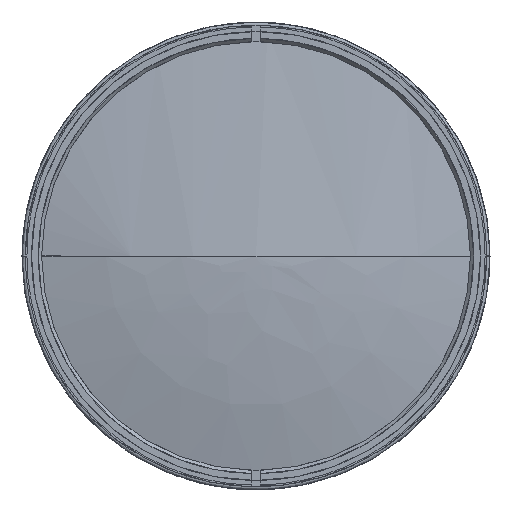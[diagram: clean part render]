
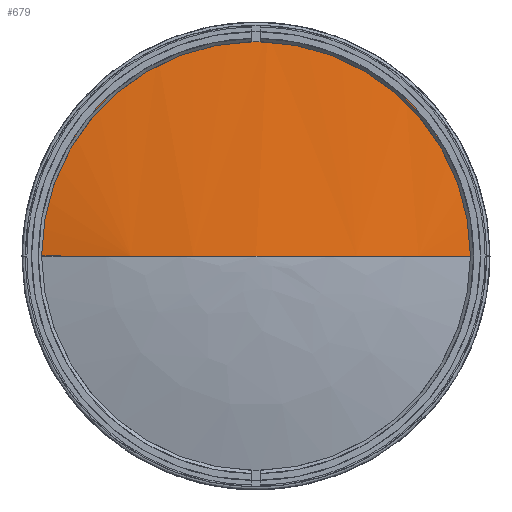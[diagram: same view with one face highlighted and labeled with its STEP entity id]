
A CAD part, left-side view. The second image highlights one B-rep face of the part: STEP entity #679.
In plain terms, the highlighted face is a revolution surface.
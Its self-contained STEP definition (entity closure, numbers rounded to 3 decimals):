
#679 = ADVANCED_FACE('',(#680),#698,.T.);
#680 = FACE_BOUND('',#681,.T.);
#681 = EDGE_LOOP('',(#682,#712,#731,#750));
#682 = ORIENTED_EDGE('',*,*,#683,.F.);
#683 = EDGE_CURVE('',#684,#686,#688,.T.);
#684 = VERTEX_POINT('',#685);
#685 = CARTESIAN_POINT('',(-278.,0.,0.)
  );
#686 = VERTEX_POINT('',#687);
#687 = CARTESIAN_POINT('',(-270.092,-68.5,
    0.));
#688 = SURFACE_CURVE('',#689,(#697),.PCURVE_S1.);
#689 = ( BOUNDED_CURVE() B_SPLINE_CURVE(6,(#690,#691,#692,#693,#694,#695
,#696),.UNSPECIFIED.,.F.,.F.) B_SPLINE_CURVE_WITH_KNOTS((7,7),(0.,1.),
.PIECEWISE_BEZIER_KNOTS.) CURVE() GEOMETRIC_REPRESENTATION_ITEM() 
RATIONAL_B_SPLINE_CURVE((1.001,1.,1.,
    1.,1.,1.,1.001)) 
REPRESENTATION_ITEM('') );
#690 = CARTESIAN_POINT('',(-278.,0.,0.)
  );
#691 = CARTESIAN_POINT('',(-278.,-11.523,
    0.));
#692 = CARTESIAN_POINT('',(-277.47,-23.04,
    0.));
#693 = CARTESIAN_POINT('',(-276.411,-34.523,
    0.));
#694 = CARTESIAN_POINT('',(-274.826,-45.946,
    0.));
#695 = CARTESIAN_POINT('',(-272.718,-57.28,
    0.));
#696 = CARTESIAN_POINT('',(-270.092,-68.5,
    0.));
#697 = PCURVE('',#698,#707);
#698 = SURFACE_OF_REVOLUTION('',#699,#704);
#699 = CIRCLE('',#700,300.64);
#700 = AXIS2_PLACEMENT_3D('',#701,#702,#703);
#701 = CARTESIAN_POINT('',(22.64,0.,0.
    ));
#702 = DIRECTION('',(0.,0.,-1.));
#703 = DIRECTION('',(1.,0.,0.));
#704 = AXIS1_PLACEMENT('',#705,#706);
#705 = CARTESIAN_POINT('',(22.64,0.,0.));
#706 = DIRECTION('',(1.,0.,0.));
#707 = DEFINITIONAL_REPRESENTATION('',(#708),#711);
#708 = B_SPLINE_CURVE_WITH_KNOTS('',1,(#709,#710),.UNSPECIFIED.,.F.,.F.,
  (2,2),(0.,1.),.PIECEWISE_BEZIER_KNOTS.);
#709 = CARTESIAN_POINT('',(6.283,3.142));
#710 = CARTESIAN_POINT('',(6.283,2.912));
#711 = ( GEOMETRIC_REPRESENTATION_CONTEXT(2) 
PARAMETRIC_REPRESENTATION_CONTEXT() REPRESENTATION_CONTEXT('',''
  ) );
#712 = ORIENTED_EDGE('',*,*,#713,.F.);
#713 = EDGE_CURVE('',#714,#684,#716,.T.);
#714 = VERTEX_POINT('',#715);
#715 = CARTESIAN_POINT('',(-278.,0.,0.)
  );
#716 = SURFACE_CURVE('',#717,(#725),.PCURVE_S1.);
#717 = ( BOUNDED_CURVE() B_SPLINE_CURVE(6,(#718,#719,#720,#721,#722,#723
,#724),.UNSPECIFIED.,.F.,.F.) B_SPLINE_CURVE_WITH_KNOTS((7,7),(0.,1.),
.PIECEWISE_BEZIER_KNOTS.) CURVE() GEOMETRIC_REPRESENTATION_ITEM() 
RATIONAL_B_SPLINE_CURVE((1.133,1.036,0.992,
    0.976,0.992,1.036,1.133)) 
REPRESENTATION_ITEM('') );
#718 = CARTESIAN_POINT('',(-278.,0.,0.)
  );
#719 = CARTESIAN_POINT('',(-278.,0.,0.));
#720 = CARTESIAN_POINT('',(-278.,0.,0.));
#721 = CARTESIAN_POINT('',(-278.,0.,0.)
  );
#722 = CARTESIAN_POINT('',(-278.,0.,0.)
  );
#723 = CARTESIAN_POINT('',(-278.,0.,0.)
  );
#724 = CARTESIAN_POINT('',(-278.,0.,0.)
  );
#725 = PCURVE('',#698,#726);
#726 = DEFINITIONAL_REPRESENTATION('',(#727),#730);
#727 = B_SPLINE_CURVE_WITH_KNOTS('',1,(#728,#729),.UNSPECIFIED.,.F.,.F.,
  (2,2),(0.,1.),.PIECEWISE_BEZIER_KNOTS.);
#728 = CARTESIAN_POINT('',(3.142,3.142));
#729 = CARTESIAN_POINT('',(6.283,3.142));
#730 = ( GEOMETRIC_REPRESENTATION_CONTEXT(2) 
PARAMETRIC_REPRESENTATION_CONTEXT() REPRESENTATION_CONTEXT('',''
  ) );
#731 = ORIENTED_EDGE('',*,*,#732,.F.);
#732 = EDGE_CURVE('',#733,#714,#735,.T.);
#733 = VERTEX_POINT('',#734);
#734 = CARTESIAN_POINT('',(-270.092,68.5,
    0.));
#735 = SURFACE_CURVE('',#736,(#744),.PCURVE_S1.);
#736 = ( BOUNDED_CURVE() B_SPLINE_CURVE(6,(#737,#738,#739,#740,#741,#742
,#743),.UNSPECIFIED.,.F.,.F.) B_SPLINE_CURVE_WITH_KNOTS((7,7),(0.,1.),
.PIECEWISE_BEZIER_KNOTS.) CURVE() GEOMETRIC_REPRESENTATION_ITEM() 
RATIONAL_B_SPLINE_CURVE((1.001,1.,1.,
    1.,1.,1.,1.001)) 
REPRESENTATION_ITEM('') );
#737 = CARTESIAN_POINT('',(-270.092,68.5,
    0.));
#738 = CARTESIAN_POINT('',(-272.718,57.28,
    0.));
#739 = CARTESIAN_POINT('',(-274.826,45.946,
    0.));
#740 = CARTESIAN_POINT('',(-276.411,34.523,
    0.));
#741 = CARTESIAN_POINT('',(-277.47,23.04,
    0.));
#742 = CARTESIAN_POINT('',(-278.,11.523,
    0.));
#743 = CARTESIAN_POINT('',(-278.,0.,0.)
  );
#744 = PCURVE('',#698,#745);
#745 = DEFINITIONAL_REPRESENTATION('',(#746),#749);
#746 = B_SPLINE_CURVE_WITH_KNOTS('',1,(#747,#748),.UNSPECIFIED.,.F.,.F.,
  (2,2),(0.,1.),.PIECEWISE_BEZIER_KNOTS.);
#747 = CARTESIAN_POINT('',(3.142,2.912));
#748 = CARTESIAN_POINT('',(3.142,3.142));
#749 = ( GEOMETRIC_REPRESENTATION_CONTEXT(2) 
PARAMETRIC_REPRESENTATION_CONTEXT() REPRESENTATION_CONTEXT('',''
  ) );
#750 = ORIENTED_EDGE('',*,*,#751,.F.);
#751 = EDGE_CURVE('',#686,#733,#752,.T.);
#752 = SURFACE_CURVE('',#753,(#764),.PCURVE_S1.);
#753 = B_SPLINE_CURVE_WITH_KNOTS('',9,(#754,#755,#756,#757,#758,#759,
    #760,#761,#762,#763),.UNSPECIFIED.,.F.,.F.,(10,10),(0.,1.),
  .PIECEWISE_BEZIER_KNOTS.);
#754 = CARTESIAN_POINT('',(-270.092,-68.5,
    0.));
#755 = CARTESIAN_POINT('',(-270.092,-68.5,
    23.911));
#756 = CARTESIAN_POINT('',(-270.092,-59.11,
    47.822));
#757 = CARTESIAN_POINT('',(-270.092,-40.33,
    67.518));
#758 = CARTESIAN_POINT('',(-270.092,-14.368,
    78.791));
#759 = CARTESIAN_POINT('',(-270.092,14.368,
    78.791));
#760 = CARTESIAN_POINT('',(-270.092,40.33,
    67.518));
#761 = CARTESIAN_POINT('',(-270.092,59.11,
    47.822));
#762 = CARTESIAN_POINT('',(-270.092,68.5,
    23.911));
#763 = CARTESIAN_POINT('',(-270.092,68.5,
    0.));
#764 = PCURVE('',#698,#765);
#765 = DEFINITIONAL_REPRESENTATION('',(#766),#769);
#766 = B_SPLINE_CURVE_WITH_KNOTS('',1,(#767,#768),.UNSPECIFIED.,.F.,.F.,
  (2,2),(0.,1.),.PIECEWISE_BEZIER_KNOTS.);
#767 = CARTESIAN_POINT('',(6.283,2.912));
#768 = CARTESIAN_POINT('',(3.142,2.912));
#769 = ( GEOMETRIC_REPRESENTATION_CONTEXT(2) 
PARAMETRIC_REPRESENTATION_CONTEXT() REPRESENTATION_CONTEXT('',''
  ) );
